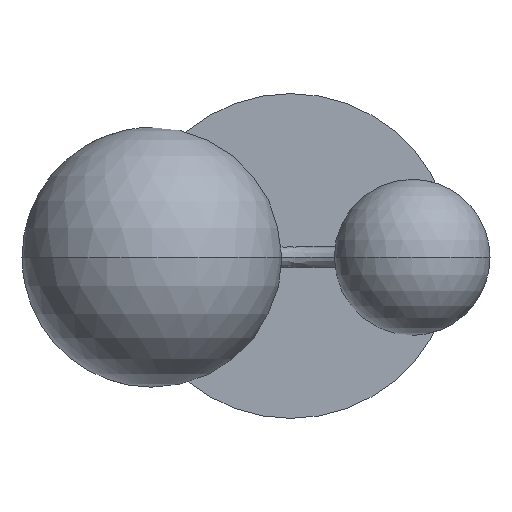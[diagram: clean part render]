
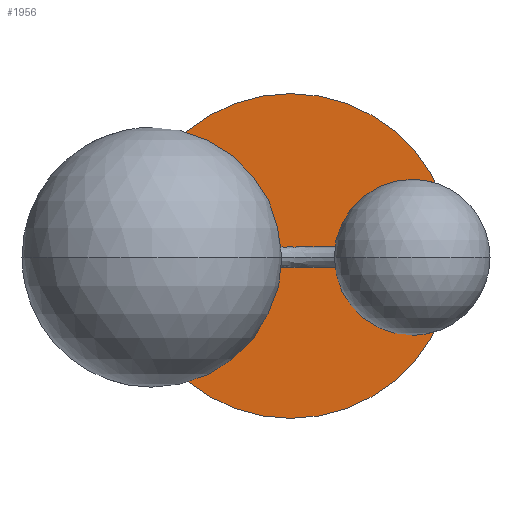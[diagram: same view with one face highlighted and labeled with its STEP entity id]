
A CAD part, front view. The second image highlights one B-rep face of the part: STEP entity #1956.
In plain terms, the highlighted planar face has unit normal (0, -1, 0).
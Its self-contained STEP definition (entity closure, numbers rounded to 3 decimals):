
#9 = FACE_BOUND ( 'NONE', #164, .T. ) ;
#13 = CARTESIAN_POINT ( 'NONE',  ( 5.227, 987.892, 3.358 ) ) ;
#26 = AXIS2_PLACEMENT_3D ( 'NONE', #2304, #1204, #643 ) ;
#27 = ORIENTED_EDGE ( 'NONE', *, *, #767, .F. ) ;
#32 = CARTESIAN_POINT ( 'NONE',  ( 5.227, 987.892, 3.491 ) ) ;
#105 = CARTESIAN_POINT ( 'NONE',  ( 1.11, 987.892, 3.491 ) ) ;
#118 = CARTESIAN_POINT ( 'NONE',  ( 5.227, 987.892, 3.625 ) ) ;
#131 = CARTESIAN_POINT ( 'NONE',  ( 3.691, 987.892, 5.41 ) ) ;
#145 = CARTESIAN_POINT ( 'NONE',  ( 5.118, 987.892, 2.842 ) ) ;
#159 = CARTESIAN_POINT ( 'NONE',  ( 2.644, 987.892, 5.41 ) ) ;
#164 = EDGE_LOOP ( 'NONE', ( #27, #685 ) ) ;
#171 = CARTESIAN_POINT ( 'NONE',  ( 2.271, 987.892, 5.278 ) ) ;
#182 = CIRCLE ( 'NONE', #26, 125. ) ;
#190 = FACE_OUTER_BOUND ( 'NONE', #1848, .T. ) ;
#200 = DIRECTION ( 'NONE',  ( 0., 1., 0. ) ) ;
#291 = CIRCLE ( 'NONE', #712, 125. ) ;
#323 = CARTESIAN_POINT ( 'NONE',  ( 0., 987.892, 125. ) ) ;
#325 = CARTESIAN_POINT ( 'NONE',  ( 3.432, 987.892, 5.459 ) ) ;
#339 = CARTESIAN_POINT ( 'NONE',  ( 5.159, 987.892, 4.014 ) ) ;
#399 = VERTEX_POINT ( 'NONE', #323 ) ;
#490 = CARTESIAN_POINT ( 'NONE',  ( 3.301, 987.892, 5.471 ) ) ;
#501 = B_SPLINE_CURVE_WITH_KNOTS ( 'NONE', 3,
 ( #105, #1602, #835, #679, #2158, #997, #2171, #1638, #541, #1284, #1471, #1842, #2351, #2007, #1433, #547, #720, #2018, #741, #530, #1463, #887, #929, #916, #692, #145, #1239, #1659, #13, #2197 ),
 .UNSPECIFIED., .F., .F.,
 ( 4, 2, 2, 2, 2, 2, 2, 2, 2, 2, 2, 2, 2, 2, 4 ),
 ( 0., 0., 0.001, 0.001, 0.002, 0.002, 0.003, 0.003, 0.004, 0.004, 0.004, 0.005, 0.006, 0.006, 0.006 ),
 .UNSPECIFIED. ) ;
#530 = CARTESIAN_POINT ( 'NONE',  ( 4.066, 987.892, 1.705 ) ) ;
#541 = CARTESIAN_POINT ( 'NONE',  ( 1.632, 987.892, 2.168 ) ) ;
#547 = CARTESIAN_POINT ( 'NONE',  ( 3.3, 987.892, 1.512 ) ) ;
#553 = DIRECTION ( 'NONE',  ( 0., 0., 1. ) ) ;
#643 = DIRECTION ( 'NONE',  ( 0., 0., 1. ) ) ;
#666 = CARTESIAN_POINT ( 'NONE',  ( 4.705, 987.892, 4.815 ) ) ;
#679 = CARTESIAN_POINT ( 'NONE',  ( 1.178, 987.892, 2.969 ) ) ;
#680 = CARTESIAN_POINT ( 'NONE',  ( 1.219, 987.892, 4.141 ) ) ;
#685 = ORIENTED_EDGE ( 'NONE', *, *, #2380, .F. ) ;
#692 = CARTESIAN_POINT ( 'NONE',  ( 4.958, 987.892, 2.477 ) ) ;
#712 = AXIS2_PLACEMENT_3D ( 'NONE', #2095, #1369, #2108 ) ;
#720 = CARTESIAN_POINT ( 'NONE',  ( 3.434, 987.892, 1.524 ) ) ;
#741 = CARTESIAN_POINT ( 'NONE',  ( 3.819, 987.892, 1.609 ) ) ;
#767 = EDGE_CURVE ( 'NONE', #1373, #1459, #892, .T. ) ;
#835 = CARTESIAN_POINT ( 'NONE',  ( 1.124, 987.892, 3.227 ) ) ;
#862 = CARTESIAN_POINT ( 'NONE',  ( 2.152, 987.892, 5.217 ) ) ;
#875 = CARTESIAN_POINT ( 'NONE',  ( 1.124, 987.892, 3.758 ) ) ;
#887 = CARTESIAN_POINT ( 'NONE',  ( 4.408, 987.892, 1.906 ) ) ;
#888 = CARTESIAN_POINT ( 'NONE',  ( 2.518, 987.892, 5.374 ) ) ;
#892 = B_SPLINE_CURVE_WITH_KNOTS ( 'NONE', 3,
 ( #1994, #118, #1807, #339, #1982, #1408, #1090, #1268, #666, #1779, #2008, #1959, #131, #325, #490, #1971, #1603, #159, #888, #171, #862, #902, #1064, #1639, #2377, #680, #2160, #875, #1394, #2132 ),
 .UNSPECIFIED., .F., .F.,
 ( 4, 2, 2, 2, 2, 2, 2, 2, 2, 2, 2, 2, 2, 2, 4 ),
 ( 0., 0., 0.001, 0.001, 0.002, 0.002, 0.003, 0.003, 0.004, 0.004, 0.004, 0.005, 0.006, 0.006, 0.006 ),
 .UNSPECIFIED. ) ;
#902 = CARTESIAN_POINT ( 'NONE',  ( 1.929, 987.892, 5.077 ) ) ;
#916 = CARTESIAN_POINT ( 'NONE',  ( 4.803, 987.892, 2.26 ) ) ;
#929 = CARTESIAN_POINT ( 'NONE',  ( 4.512, 987.892, 1.986 ) ) ;
#973 = CARTESIAN_POINT ( 'NONE',  ( 1.11, 987.892, 3.491 ) ) ;
#997 = CARTESIAN_POINT ( 'NONE',  ( 1.326, 987.892, 2.599 ) ) ;
#1045 = ORIENTED_EDGE ( 'NONE', *, *, #2216, .F. ) ;
#1064 = CARTESIAN_POINT ( 'NONE',  ( 1.825, 987.892, 4.997 ) ) ;
#1090 = CARTESIAN_POINT ( 'NONE',  ( 4.946, 987.892, 4.498 ) ) ;
#1204 = DIRECTION ( 'NONE',  ( 0., 1., 0. ) ) ;
#1239 = CARTESIAN_POINT ( 'NONE',  ( 5.158, 987.892, 2.967 ) ) ;
#1268 = CARTESIAN_POINT ( 'NONE',  ( 4.793, 987.892, 4.714 ) ) ;
#1284 = CARTESIAN_POINT ( 'NONE',  ( 1.919, 987.892, 1.897 ) ) ;
#1369 = DIRECTION ( 'NONE',  ( 0., 1., 0. ) ) ;
#1373 = VERTEX_POINT ( 'NONE', #32 ) ;
#1394 = CARTESIAN_POINT ( 'NONE',  ( 1.11, 987.892, 3.625 ) ) ;
#1408 = CARTESIAN_POINT ( 'NONE',  ( 5.011, 987.892, 4.383 ) ) ;
#1433 = CARTESIAN_POINT ( 'NONE',  ( 3.036, 987.892, 1.512 ) ) ;
#1459 = VERTEX_POINT ( 'NONE', #973 ) ;
#1463 = CARTESIAN_POINT ( 'NONE',  ( 4.185, 987.892, 1.766 ) ) ;
#1471 = CARTESIAN_POINT ( 'NONE',  ( 2.149, 987.892, 1.753 ) ) ;
#1589 = CARTESIAN_POINT ( 'NONE',  ( 0., 987.892, -125. ) ) ;
#1602 = CARTESIAN_POINT ( 'NONE',  ( 1.11, 987.892, 3.358 ) ) ;
#1603 = CARTESIAN_POINT ( 'NONE',  ( 2.903, 987.892, 5.458 ) ) ;
#1638 = CARTESIAN_POINT ( 'NONE',  ( 1.544, 987.892, 2.269 ) ) ;
#1639 = CARTESIAN_POINT ( 'NONE',  ( 1.534, 987.892, 4.723 ) ) ;
#1659 = CARTESIAN_POINT ( 'NONE',  ( 5.213, 987.892, 3.225 ) ) ;
#1779 = CARTESIAN_POINT ( 'NONE',  ( 4.418, 987.892, 5.086 ) ) ;
#1807 = CARTESIAN_POINT ( 'NONE',  ( 5.213, 987.892, 3.756 ) ) ;
#1826 = PLANE ( 'NONE',  #2375 ) ;
#1842 = CARTESIAN_POINT ( 'NONE',  ( 2.517, 987.892, 1.61 ) ) ;
#1848 = EDGE_LOOP ( 'NONE', ( #1045, #2049 ) ) ;
#1858 = CARTESIAN_POINT ( 'NONE',  ( 0., 987.892, 0. ) ) ;
#1956 = ADVANCED_FACE ( 'NONE', ( #190, #9 ), #1826, .F. ) ;
#1959 = CARTESIAN_POINT ( 'NONE',  ( 3.82, 987.892, 5.373 ) ) ;
#1971 = CARTESIAN_POINT ( 'NONE',  ( 3.037, 987.892, 5.471 ) ) ;
#1982 = CARTESIAN_POINT ( 'NONE',  ( 5.118, 987.892, 4.142 ) ) ;
#1994 = CARTESIAN_POINT ( 'NONE',  ( 5.227, 987.892, 3.491 ) ) ;
#2007 = CARTESIAN_POINT ( 'NONE',  ( 2.905, 987.892, 1.524 ) ) ;
#2008 = CARTESIAN_POINT ( 'NONE',  ( 4.188, 987.892, 5.23 ) ) ;
#2018 = CARTESIAN_POINT ( 'NONE',  ( 3.693, 987.892, 1.573 ) ) ;
#2049 = ORIENTED_EDGE ( 'NONE', *, *, #2062, .F. ) ;
#2062 = EDGE_CURVE ( 'NONE', #2165, #399, #291, .T. ) ;
#2095 = CARTESIAN_POINT ( 'NONE',  ( 0., 987.892, 0. ) ) ;
#2108 = DIRECTION ( 'NONE',  ( 0., 0., 1. ) ) ;
#2132 = CARTESIAN_POINT ( 'NONE',  ( 1.11, 987.892, 3.491 ) ) ;
#2158 = CARTESIAN_POINT ( 'NONE',  ( 1.219, 987.892, 2.841 ) ) ;
#2160 = CARTESIAN_POINT ( 'NONE',  ( 1.179, 987.892, 4.016 ) ) ;
#2165 = VERTEX_POINT ( 'NONE', #1589 ) ;
#2171 = CARTESIAN_POINT ( 'NONE',  ( 1.391, 987.892, 2.485 ) ) ;
#2197 = CARTESIAN_POINT ( 'NONE',  ( 5.227, 987.892, 3.491 ) ) ;
#2216 = EDGE_CURVE ( 'NONE', #399, #2165, #182, .T. ) ;
#2304 = CARTESIAN_POINT ( 'NONE',  ( 0., 987.892, 0. ) ) ;
#2351 = CARTESIAN_POINT ( 'NONE',  ( 2.646, 987.892, 1.573 ) ) ;
#2375 = AXIS2_PLACEMENT_3D ( 'NONE', #1858, #200, #553 ) ;
#2377 = CARTESIAN_POINT ( 'NONE',  ( 1.38, 987.892, 4.506 ) ) ;
#2380 = EDGE_CURVE ( 'NONE', #1459, #1373, #501, .T. ) ;
